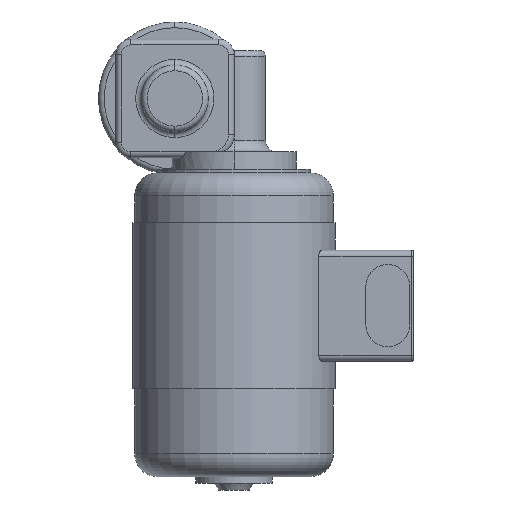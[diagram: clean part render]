
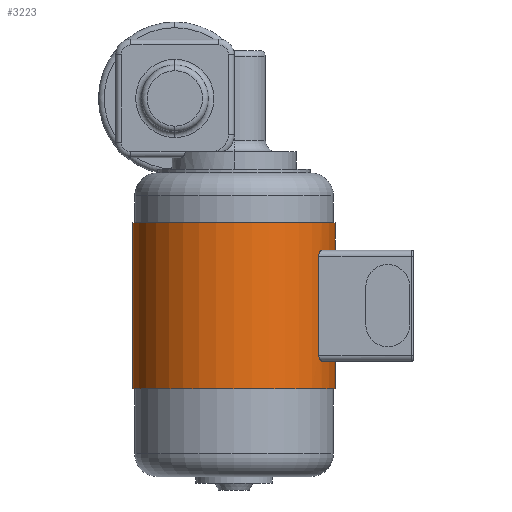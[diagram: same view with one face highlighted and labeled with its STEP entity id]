
A CAD part, left-side view. The second image highlights one B-rep face of the part: STEP entity #3223.
In plain terms, the highlighted cylindrical face has radius 53 mm (diameter 106 mm), a partial arc.
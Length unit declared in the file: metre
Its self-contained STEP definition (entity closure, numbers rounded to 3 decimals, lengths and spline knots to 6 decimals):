
#1 = B_SPLINE_CURVE_WITH_KNOTS ( 'NONE', 3,
 ( #3590, #3585, #3586, #3591, #3592, #3593, #3594, #3595, #3596, #3597, #3598, #3599, #3600, #3601, #3602, #3603 ),
 .UNSPECIFIED., .F., .F.,
 ( 4, 2, 2, 2, 2, 2, 2, 4 ),
 ( 0., 0.001266, 0.001899, 0.002532, 0.003166, 0.003799, 0.004432, 0.005065 ),
 .UNSPECIFIED. ) ;
#30 = EDGE_CURVE ( 'NONE', #306, #300, #372, .T. ) ;
#31 = EDGE_CURVE ( 'NONE', #4511, #496, #357, .T. ) ;
#32 = EDGE_CURVE ( 'NONE', #336, #312, #3501, .T. ) ;
#36 = EDGE_CURVE ( 'NONE', #300, #496, #3514, .T. ) ;
#38 = EDGE_CURVE ( 'NONE', #299, #309, #360, .T. ) ;
#41 = EDGE_CURVE ( 'NONE', #299, #4511, #3531, .T. ) ;
#49 = EDGE_CURVE ( 'NONE', #309, #296, #3582, .T. ) ;
#51 = EDGE_CURVE ( 'NONE', #268, #336, #1, .T. ) ;
#56 = EDGE_CURVE ( 'NONE', #296, #268, #4769, .T. ) ;
#57 = EDGE_CURVE ( 'NONE', #312, #306, #478, .T. ) ;
#268 = VERTEX_POINT ( 'NONE', #3976 ) ;
#296 = VERTEX_POINT ( 'NONE', #4002 ) ;
#299 = VERTEX_POINT ( 'NONE', #4005 ) ;
#300 = VERTEX_POINT ( 'NONE', #4006 ) ;
#306 = VERTEX_POINT ( 'NONE', #4012 ) ;
#309 = VERTEX_POINT ( 'NONE', #4015 ) ;
#312 = VERTEX_POINT ( 'NONE', #4018 ) ;
#336 = VERTEX_POINT ( 'NONE', #4044 ) ;
#343 = VECTOR ( 'NONE', #3584, 1. ) ;
#344 = VECTOR ( 'NONE', #3533, 1. ) ;
#357 = CIRCLE ( 'NONE', #396, 0.053 ) ;
#360 = CIRCLE ( 'NONE', #378, 0.053 ) ;
#372 = CIRCLE ( 'NONE', #377, 0.053 ) ;
#377 = AXIS2_PLACEMENT_3D ( 'NONE', #3498, #3499, #3500 ) ;
#378 = AXIS2_PLACEMENT_3D ( 'NONE', #3523, #3524, #3525 ) ;
#389 = VECTOR ( 'NONE', #3518, 1. ) ;
#394 = VECTOR ( 'NONE', #3506, 1. ) ;
#396 = AXIS2_PLACEMENT_3D ( 'NONE', #3502, #3503, #3504 ) ;
#478 = B_SPLINE_CURVE_WITH_KNOTS ( 'NONE', 3,
 ( #3622, #3617, #3618, #3623, #3624, #3625, #3626, #3627, #3628, #3629, #3630, #3631, #3632, #3633, #3634, #3635, #3636, #3637 ),
 .UNSPECIFIED., .F., .F.,
 ( 4, 2, 2, 2, 2, 2, 2, 2, 4 ),
 ( 0.005065, 0.005695, 0.006326, 0.006956, 0.007587, 0.008217, 0.008848, 0.009478, 0.010108 ),
 .UNSPECIFIED. ) ;
#496 = VERTEX_POINT ( 'NONE', #4042 ) ;
#1086 = DIRECTION ( 'NONE',  ( 0., 0., -1. ) ) ;
#1087 = FACE_OUTER_BOUND ( 'NONE', #4944, .T. ) ;
#1089 = CARTESIAN_POINT ( 'NONE',  ( -0.000277, 0.000277, -0.028 ) ) ;
#1091 = CYLINDRICAL_SURFACE ( 'NONE', #2073, 0.053 ) ;
#1092 = DIRECTION ( 'NONE',  ( -1., 0., 0. ) ) ;
#1429 = ORIENTED_EDGE ( 'NONE', *, *, #30, .F. ) ;
#1440 = ORIENTED_EDGE ( 'NONE', *, *, #38, .F. ) ;
#1441 = ORIENTED_EDGE ( 'NONE', *, *, #41, .T. ) ;
#1469 = ORIENTED_EDGE ( 'NONE', *, *, #49, .F. ) ;
#1948 = CARTESIAN_POINT ( 'NONE',  ( -0.053277, 0.000277, -0.115 ) ) ;
#2073 = AXIS2_PLACEMENT_3D ( 'NONE', #1089, #1086, #1092 ) ;
#3223 = ADVANCED_FACE ( 'NONE', ( #1087 ), #1091, .T. ) ;
#3276 = ORIENTED_EDGE ( 'NONE', *, *, #57, .F. ) ;
#3281 = ORIENTED_EDGE ( 'NONE', *, *, #31, .T. ) ;
#3282 = ORIENTED_EDGE ( 'NONE', *, *, #51, .F. ) ;
#3300 = ORIENTED_EDGE ( 'NONE', *, *, #56, .F. ) ;
#3308 = ORIENTED_EDGE ( 'NONE', *, *, #32, .F. ) ;
#3309 = ORIENTED_EDGE ( 'NONE', *, *, #36, .F. ) ;
#3497 = CARTESIAN_POINT ( 'NONE',  ( 0.044086, -0.028723, -0.028 ) ) ;
#3498 = CARTESIAN_POINT ( 'NONE',  ( -0.000277, 0.000277, -0.1005 ) ) ;
#3499 = DIRECTION ( 'NONE',  ( 0., 0., 1. ) ) ;
#3500 = DIRECTION ( 'NONE',  ( 1., 0., 0. ) ) ;
#3501 = LINE ( 'NONE', #3497, #394 ) ;
#3502 = CARTESIAN_POINT ( 'NONE',  ( -0.000277, 0.000277, -0.115 ) ) ;
#3503 = DIRECTION ( 'NONE',  ( 0., 0., 1. ) ) ;
#3504 = DIRECTION ( 'NONE',  ( 1., 0., 0. ) ) ;
#3506 = DIRECTION ( 'NONE',  ( 0., 0., -1. ) ) ;
#3511 = CARTESIAN_POINT ( 'NONE',  ( 0.052723, 0.000277, -0.028 ) ) ;
#3514 = LINE ( 'NONE', #3511, #389 ) ;
#3518 = DIRECTION ( 'NONE',  ( 0., 0., -1. ) ) ;
#3523 = CARTESIAN_POINT ( 'NONE',  ( -0.000277, 0.000277, -0.028 ) ) ;
#3524 = DIRECTION ( 'NONE',  ( 0., 0., 1. ) ) ;
#3525 = DIRECTION ( 'NONE',  ( 1., 0., 0. ) ) ;
#3531 = LINE ( 'NONE', #3532, #344 ) ;
#3532 = CARTESIAN_POINT ( 'NONE',  ( -0.053277, 0.000277, -0.028 ) ) ;
#3533 = DIRECTION ( 'NONE',  ( 0., 0., -1. ) ) ;
#3582 = LINE ( 'NONE', #3583, #343 ) ;
#3583 = CARTESIAN_POINT ( 'NONE',  ( 0.052723, 0.000277, -0.028 ) ) ;
#3584 = DIRECTION ( 'NONE',  ( 0., 0., -1. ) ) ;
#3585 = CARTESIAN_POINT ( 'NONE',  ( 0.045697, -0.026098, -0.0425 ) ) ;
#3586 = CARTESIAN_POINT ( 'NONE',  ( 0.045488, -0.026459, -0.042568 ) ) ;
#3590 = CARTESIAN_POINT ( 'NONE',  ( 0.045908, -0.025723, -0.0425 ) ) ;
#3591 = CARTESIAN_POINT ( 'NONE',  ( 0.045178, -0.026979, -0.042769 ) ) ;
#3592 = CARTESIAN_POINT ( 'NONE',  ( 0.045075, -0.02715, -0.042854 ) ) ;
#3593 = CARTESIAN_POINT ( 'NONE',  ( 0.04488, -0.02747, -0.043054 ) ) ;
#3594 = CARTESIAN_POINT ( 'NONE',  ( 0.044787, -0.027622, -0.043169 ) ) ;
#3595 = CARTESIAN_POINT ( 'NONE',  ( 0.04461, -0.027905, -0.043432 ) ) ;
#3596 = CARTESIAN_POINT ( 'NONE',  ( 0.044526, -0.028038, -0.043581 ) ) ;
#3597 = CARTESIAN_POINT ( 'NONE',  ( 0.044377, -0.028272, -0.043905 ) ) ;
#3598 = CARTESIAN_POINT ( 'NONE',  ( 0.044312, -0.028374, -0.04408 ) ) ;
#3599 = CARTESIAN_POINT ( 'NONE',  ( 0.044202, -0.028545, -0.04446 ) ) ;
#3600 = CARTESIAN_POINT ( 'NONE',  ( 0.044159, -0.028611, -0.044659 ) ) ;
#3601 = CARTESIAN_POINT ( 'NONE',  ( 0.044101, -0.0287, -0.04507 ) ) ;
#3602 = CARTESIAN_POINT ( 'NONE',  ( 0.044086, -0.028723, -0.045286 ) ) ;
#3603 = CARTESIAN_POINT ( 'NONE',  ( 0.044086, -0.028723, -0.0455 ) ) ;
#3617 = CARTESIAN_POINT ( 'NONE',  ( 0.044086, -0.028723, -0.097713 ) ) ;
#3618 = CARTESIAN_POINT ( 'NONE',  ( 0.0441, -0.028701, -0.097923 ) ) ;
#3619 = CARTESIAN_POINT ( 'NONE',  ( -0.000277, 0.000277, -0.0425 ) ) ;
#3620 = DIRECTION ( 'NONE',  ( 0., 0., -1. ) ) ;
#3621 = DIRECTION ( 'NONE',  ( -1., 0., 0. ) ) ;
#3622 = CARTESIAN_POINT ( 'NONE',  ( 0.044086, -0.028723, -0.0975 ) ) ;
#3623 = CARTESIAN_POINT ( 'NONE',  ( 0.044159, -0.028611, -0.09834 ) ) ;
#3624 = CARTESIAN_POINT ( 'NONE',  ( 0.044201, -0.028546, -0.098538 ) ) ;
#3625 = CARTESIAN_POINT ( 'NONE',  ( 0.04431, -0.028377, -0.098914 ) ) ;
#3626 = CARTESIAN_POINT ( 'NONE',  ( 0.044376, -0.028274, -0.099092 ) ) ;
#3627 = CARTESIAN_POINT ( 'NONE',  ( 0.044524, -0.028041, -0.099415 ) ) ;
#3628 = CARTESIAN_POINT ( 'NONE',  ( 0.044607, -0.027909, -0.099564 ) ) ;
#3629 = CARTESIAN_POINT ( 'NONE',  ( 0.044785, -0.027625, -0.099829 ) ) ;
#3630 = CARTESIAN_POINT ( 'NONE',  ( 0.044878, -0.027473, -0.099944 ) ) ;
#3631 = CARTESIAN_POINT ( 'NONE',  ( 0.045074, -0.027152, -0.100145 ) ) ;
#3632 = CARTESIAN_POINT ( 'NONE',  ( 0.045176, -0.026982, -0.100229 ) ) ;
#3633 = CARTESIAN_POINT ( 'NONE',  ( 0.045382, -0.026636, -0.100364 ) ) ;
#3634 = CARTESIAN_POINT ( 'NONE',  ( 0.045487, -0.026458, -0.100414 ) ) ;
#3635 = CARTESIAN_POINT ( 'NONE',  ( 0.045697, -0.026094, -0.100483 ) ) ;
#3636 = CARTESIAN_POINT ( 'NONE',  ( 0.045804, -0.025908, -0.1005 ) ) ;
#3637 = CARTESIAN_POINT ( 'NONE',  ( 0.045908, -0.025723, -0.1005 ) ) ;
#3976 = CARTESIAN_POINT ( 'NONE',  ( 0.045908, -0.025723, -0.0425 ) ) ;
#4002 = CARTESIAN_POINT ( 'NONE',  ( 0.052723, 0.000277, -0.0425 ) ) ;
#4005 = CARTESIAN_POINT ( 'NONE',  ( -0.053277, 0.000277, -0.028 ) ) ;
#4006 = CARTESIAN_POINT ( 'NONE',  ( 0.052723, 0.000277, -0.1005 ) ) ;
#4012 = CARTESIAN_POINT ( 'NONE',  ( 0.045908, -0.025723, -0.1005 ) ) ;
#4015 = CARTESIAN_POINT ( 'NONE',  ( 0.052723, 0.000277, -0.028 ) ) ;
#4018 = CARTESIAN_POINT ( 'NONE',  ( 0.044086, -0.028723, -0.0975 ) ) ;
#4042 = CARTESIAN_POINT ( 'NONE',  ( 0.052723, 0.000277, -0.115 ) ) ;
#4044 = CARTESIAN_POINT ( 'NONE',  ( 0.044086, -0.028723, -0.0455 ) ) ;
#4511 = VERTEX_POINT ( 'NONE', #1948 ) ;
#4769 = CIRCLE ( 'NONE', #4772, 0.053 ) ;
#4772 = AXIS2_PLACEMENT_3D ( 'NONE', #3619, #3620, #3621 ) ;
#4944 = EDGE_LOOP ( 'NONE', ( #1469, #1440, #1441, #3281, #3309, #1429, #3276, #3308, #3282, #3300 ) ) ;
